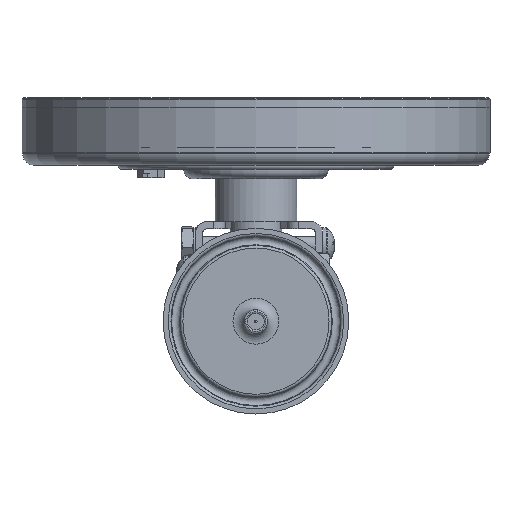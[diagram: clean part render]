
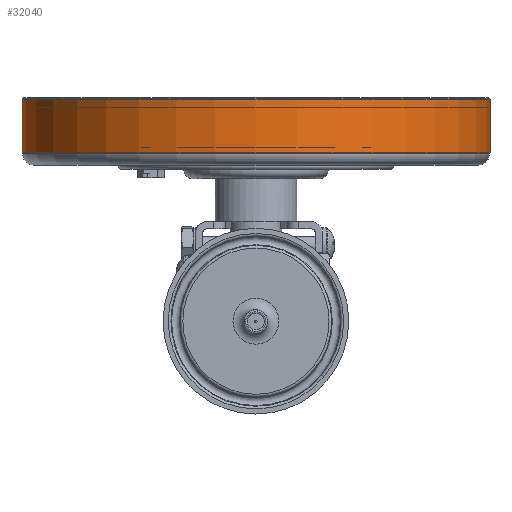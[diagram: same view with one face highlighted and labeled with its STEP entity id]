
A CAD part, front view. The second image highlights one B-rep face of the part: STEP entity #32040.
In plain terms, the highlighted cylindrical face has radius 63.5 mm (diameter 127 mm), a full revolution.
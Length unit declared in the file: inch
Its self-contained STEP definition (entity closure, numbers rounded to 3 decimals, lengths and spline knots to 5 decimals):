
#257=CYLINDRICAL_SURFACE($,#33794,2.5);
#864=FACE_BOUND($,#12764,.T.);
#10740=FACE_OUTER_BOUND($,#12763,.T.);
#12763=EDGE_LOOP($,(#27798));
#12764=EDGE_LOOP($,(#27799));
#13309=CIRCLE($,#33792,2.5);
#13311=CIRCLE($,#33795,2.5);
#15982=VERTEX_POINT($,#53658);
#15984=VERTEX_POINT($,#53663);
#20014=EDGE_CURVE($,#15982,#15982,#13309,.T.);
#20016=EDGE_CURVE($,#15984,#15984,#13311,.T.);
#27798=ORIENTED_EDGE($,*,*,#20016,.F.);
#27799=ORIENTED_EDGE($,*,*,#20014,.F.);
#32040=ADVANCED_FACE($,(#10740,#864),#257,.T.);
#33792=AXIS2_PLACEMENT_3D($,#53659,#40027,#40028);
#33794=AXIS2_PLACEMENT_3D($,#53662,#40031,#40032);
#33795=AXIS2_PLACEMENT_3D($,#53664,#40033,#40034);
#40027=DIRECTION('center_axis',(0.,0.,-1.));
#40028=DIRECTION('ref_axis',(-1.,0.,0.));
#40031=DIRECTION('center_axis',(0.,0.,-1.));
#40032=DIRECTION('ref_axis',(1.,0.,0.));
#40033=DIRECTION('center_axis',(0.,0.,1.));
#40034=DIRECTION('ref_axis',(-1.,0.,0.));
#53658=CARTESIAN_POINT('',(18.3258,8.24393,10.91751));
#53659=CARTESIAN_POINT('Origin',(15.8258,8.24393,10.91751));
#53662=CARTESIAN_POINT('Origin',(15.8258,8.24393,11.21151));
#53663=CARTESIAN_POINT('',(18.3258,8.24393,11.49014));
#53664=CARTESIAN_POINT('Origin',(15.8258,8.24393,11.49014));
